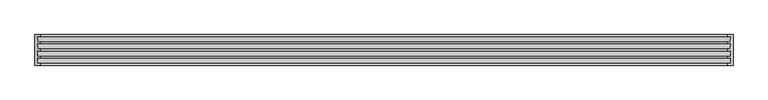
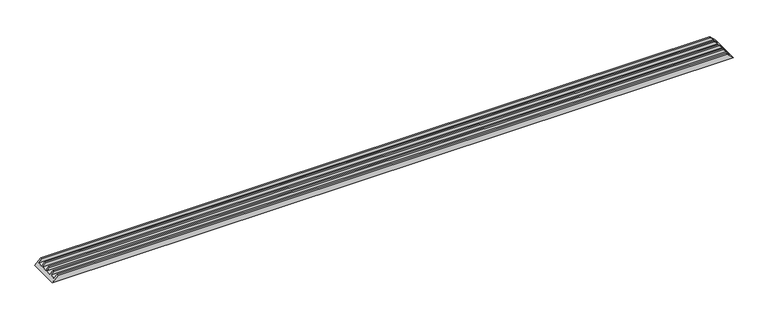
"""IFC4 building model written with IfcOpenShell, lengths in millimetres: proxy geometry, Weiku - Montante - Caixilho quíntuplo 02.2.01.003-003 refilado : Weiku - Montante - Caixilho quíntuplo 02.2.01.003-003 refilado."""

from ifc_helpers import new_model, si_unit, origin, place, context, project, spatial, faceted_brep, source, transform, mapped, element, save


def generic_models_b5a58c76(model_context):
    return source(origin(), model_context, "Body", "Brep", [
        faceted_brep([(-2971.0, -139.0, 26.0), (2971.0, -139.0, 26.0), (2945.0, -139.0, 52.0), (-2945.0, -139.0, 52.0), (-2973.2229744, -186.0, 23.7770256), (2973.2229744, -186.0, 23.7770256), (-2945.0, -186.0, 52.0), (2945.0, -186.0, 52.0), (-2945.0, -201.0, 52.0), (2945.0, -201.0, 52.0), (-2997.0, -263.0, 0.0), (-2997.0, 0.0, 0.0), (2997.0, 0.0, 0.0), (2997.0, -263.0, 0.0), (2945.0, -124.0, 52.0), (-2945.0, -124.0, 52.0), (-2971.0, -201.0, 26.0), (2971.0, -201.0, 26.0), (-2973.2229744, -248.0, 23.7770256), (2973.2229744, -248.0, 23.7770256), (-2945.0, -248.0, 52.0), (2945.0, -248.0, 52.0), (-2945.0, -263.0, 52.0), (2945.0, -263.0, 52.0), (-2945.0, 0.0, 52.0), (2945.0, 0.0, 52.0), (2973.2229744, -124.0, 23.7770256), (-2973.2229744, -124.0, 23.7770256), (-2971.0, -77.0, 26.0), (-2945.0, -77.0, 52.0), (-2945.0, -62.0, 52.0), (-2973.2229744, -62.0, 23.7770256), (-2971.0, -15.0, 26.0), (-2945.0, -15.0, 52.0), (2945.0, -15.0, 52.0), (2971.0, -15.0, 26.0), (2973.2229744, -62.0, 23.7770256), (2945.0, -62.0, 52.0), (2945.0, -77.0, 52.0), (2971.0, -77.0, 26.0)], [[[0, 1, 2, 3]], [[4, 5, 1, 0]], [[6, 7, 5, 4]], [[8, 9, 7, 6]], [[10, 11, 12, 13]], [[3, 2, 14, 15]], [[16, 17, 9, 8]], [[18, 19, 17, 16]], [[20, 21, 19, 18]], [[22, 23, 21, 20]], [[13, 23, 22, 10]], [[11, 24, 25, 12]], [[15, 14, 26, 27]], [[3, 15, 27, 28, 29, 30, 31, 32, 33, 24, 11, 10, 22, 20, 18, 16, 8, 6, 4, 0]], [[1, 5, 7, 9, 17, 19, 21, 23, 13, 12, 25, 34, 35, 36, 37, 38, 39, 26, 14, 2]], [[33, 34, 25, 24]], [[32, 35, 34, 33]], [[31, 36, 35, 32]], [[30, 37, 36, 31]], [[29, 38, 37, 30]], [[28, 39, 38, 29]], [[27, 26, 39, 28]]]),
    ])


if __name__ == "__main__":
    model = new_model("IFC4")
    model_context = context("Model", 3, world=origin())
    ifc_project = project(units=[si_unit("LENGTHUNIT", "METRE", prefix="MILLI")], contexts=[model_context])
    site = spatial("IfcSite", under=ifc_project)
    building = spatial("IfcBuilding", under=site)
    placement = place(None, origin())
    generic_models_shape = generic_models_b5a58c76(model_context)
    element("IfcBuildingElementProxy", 1, Name="Weiku - Montante - Caixilho quíntuplo 02.2.01.003-003 refilado : Weiku - Montante - Caixilho quíntuplo 02.2.01.003-003 refilado", ObjectType="Weiku - Montante - Caixilho quíntuplo 02.2.01.003-003 refilado : Weiku - Montante - Caixilho quíntuplo 02.2.01.003-003 refilado", at=placement, inside=building, context=model_context, shape_type="MappedRepresentation", body=[
        mapped(generic_models_shape, transform((0.0, 0.0, 0.0), x_axis=(1.0, 0.0, 0.0), y_axis=(0.0, 1.0, 0.0), z_axis=(0.0, 0.0, 1.0))),
    ])
    save(model, "model.ifc")
